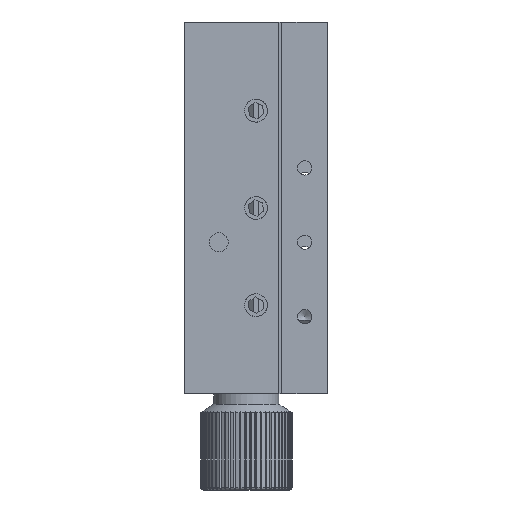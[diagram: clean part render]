
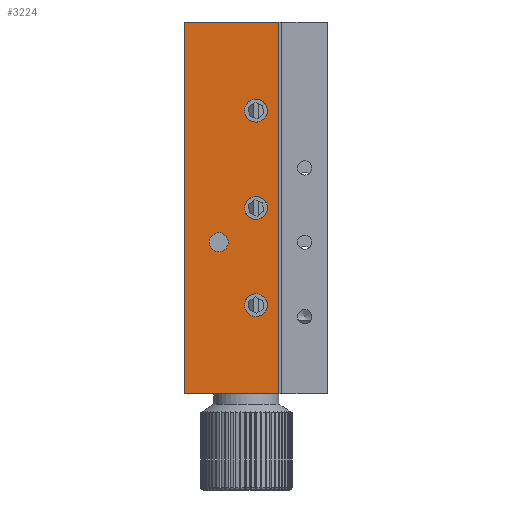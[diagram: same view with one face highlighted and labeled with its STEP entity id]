
A CAD part, left-side view. The second image highlights one B-rep face of the part: STEP entity #3224.
In plain terms, the highlighted planar face has unit normal (-1, 0, 0).
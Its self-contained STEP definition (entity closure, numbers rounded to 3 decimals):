
#50 = EDGE_CURVE ( 'NONE', #502, #494, #16207, .T. ) ;
#494 = VERTEX_POINT ( 'NONE', #4188 ) ;
#496 = VERTEX_POINT ( 'NONE', #4190 ) ;
#499 = VERTEX_POINT ( 'NONE', #4193 ) ;
#502 = VERTEX_POINT ( 'NONE', #4196 ) ;
#1358 = EDGE_CURVE ( 'NONE', #11047, #11047, #15970, .T. ) ;
#1359 = EDGE_CURVE ( 'NONE', #11045, #11045, #15966, .T. ) ;
#2084 = EDGE_LOOP ( 'NONE', ( #15119 ) ) ;
#2111 = EDGE_LOOP ( 'NONE', ( #15116, #15115, #15114, #15113 ) ) ;
#2146 = EDGE_LOOP ( 'NONE', ( #15118 ) ) ;
#2164 = EDGE_LOOP ( 'NONE', ( #15120 ) ) ;
#2193 = EDGE_LOOP ( 'NONE', ( #15117 ) ) ;
#3039 = EDGE_CURVE ( 'NONE', #499, #496, #15452, .T. ) ;
#3040 = EDGE_CURVE ( 'NONE', #502, #499, #15461, .T. ) ;
#3041 = EDGE_CURVE ( 'NONE', #494, #496, #15448, .T. ) ;
#3121 = AXIS2_PLACEMENT_3D ( 'NONE', #4445, #4446, #4447 ) ;
#3122 = AXIS2_PLACEMENT_3D ( 'NONE', #4442, #4443, #4444 ) ;
#3224 = ADVANCED_FACE ( 'NONE', ( #13415, #13410, #13441, #13432, #13412 ), #11347, .T. ) ;
#4188 = CARTESIAN_POINT ( 'NONE',  ( -100.496, -2.988, -79.681 ) ) ;
#4190 = CARTESIAN_POINT ( 'NONE',  ( -100.496, 13.512, -79.681 ) ) ;
#4193 = CARTESIAN_POINT ( 'NONE',  ( -100.496, 13.512, -14.681 ) ) ;
#4196 = CARTESIAN_POINT ( 'NONE',  ( -100.496, -2.988, -14.681 ) ) ;
#4442 = CARTESIAN_POINT ( 'NONE',  ( -100.496, 1.012, -64.181 ) ) ;
#4443 = DIRECTION ( 'NONE',  ( 1., 0., 0. ) ) ;
#4444 = DIRECTION ( 'NONE',  ( 0., 0., -1. ) ) ;
#4445 = CARTESIAN_POINT ( 'NONE',  ( -100.496, 1.012, -47.181 ) ) ;
#4446 = DIRECTION ( 'NONE',  ( 1., 0., 0. ) ) ;
#4447 = DIRECTION ( 'NONE',  ( 0., 0., -1. ) ) ;
#4934 = AXIS2_PLACEMENT_3D ( 'NONE', #11351, #11345, #11355 ) ;
#6500 = CARTESIAN_POINT ( 'NONE',  ( -100.496, 5.262, -14.681 ) ) ;
#6506 = CARTESIAN_POINT ( 'NONE',  ( -100.496, 13.512, -14.681 ) ) ;
#6508 = DIRECTION ( 'NONE',  ( 0., 0., -1. ) ) ;
#6509 = DIRECTION ( 'NONE',  ( 0., 1., 0. ) ) ;
#6510 = CARTESIAN_POINT ( 'NONE',  ( -100.496, 5.262, -79.681 ) ) ;
#6511 = DIRECTION ( 'NONE',  ( 0., 1., 0. ) ) ;
#7737 = CARTESIAN_POINT ( 'NONE',  ( -100.496, 1.012, -66.181 ) ) ;
#7738 = CARTESIAN_POINT ( 'NONE',  ( -100.496, 1.012, -49.181 ) ) ;
#7866 = CARTESIAN_POINT ( 'NONE',  ( -100.496, 1.012, -32.181 ) ) ;
#7867 = CARTESIAN_POINT ( 'NONE',  ( -100.496, 7.512, -51.531 ) ) ;
#8060 = AXIS2_PLACEMENT_3D ( 'NONE', #17277, #17278, #17279 ) ;
#8061 = AXIS2_PLACEMENT_3D ( 'NONE', #17281, #17282, #17283 ) ;
#11045 = VERTEX_POINT ( 'NONE', #7738 ) ;
#11047 = VERTEX_POINT ( 'NONE', #7737 ) ;
#11345 = DIRECTION ( 'NONE',  ( -1., 0., 0. ) ) ;
#11347 = PLANE ( 'NONE',  #4934 ) ;
#11351 = CARTESIAN_POINT ( 'NONE',  ( -100.496, 5.262, -14.681 ) ) ;
#11355 = DIRECTION ( 'NONE',  ( 0., 0., 1. ) ) ;
#11870 = CIRCLE ( 'NONE', #8061, 1.65 ) ;
#11919 = CIRCLE ( 'NONE', #8060, 2. ) ;
#13410 = FACE_BOUND ( 'NONE', #2084, .T. ) ;
#13412 = FACE_OUTER_BOUND ( 'NONE', #2111, .T. ) ;
#13415 = FACE_BOUND ( 'NONE', #2164, .T. ) ;
#13432 = FACE_BOUND ( 'NONE', #2193, .T. ) ;
#13441 = FACE_BOUND ( 'NONE', #2146, .T. ) ;
#13898 = EDGE_CURVE ( 'NONE', #14123, #14123, #11919, .T. ) ;
#13899 = EDGE_CURVE ( 'NONE', #14122, #14122, #11870, .T. ) ;
#14122 = VERTEX_POINT ( 'NONE', #7867 ) ;
#14123 = VERTEX_POINT ( 'NONE', #7866 ) ;
#15113 = ORIENTED_EDGE ( 'NONE', *, *, #3039, .T. ) ;
#15114 = ORIENTED_EDGE ( 'NONE', *, *, #3040, .T. ) ;
#15115 = ORIENTED_EDGE ( 'NONE', *, *, #50, .F. ) ;
#15116 = ORIENTED_EDGE ( 'NONE', *, *, #3041, .F. ) ;
#15117 = ORIENTED_EDGE ( 'NONE', *, *, #1358, .T. ) ;
#15118 = ORIENTED_EDGE ( 'NONE', *, *, #1359, .T. ) ;
#15119 = ORIENTED_EDGE ( 'NONE', *, *, #13898, .T. ) ;
#15120 = ORIENTED_EDGE ( 'NONE', *, *, #13899, .F. ) ;
#15445 = VECTOR ( 'NONE', #6511, 1000. ) ;
#15447 = VECTOR ( 'NONE', #6509, 1000. ) ;
#15448 = LINE ( 'NONE', #6510, #15445 ) ;
#15449 = VECTOR ( 'NONE', #6508, 1000. ) ;
#15452 = LINE ( 'NONE', #6506, #15449 ) ;
#15461 = LINE ( 'NONE', #6500, #15447 ) ;
#15966 = CIRCLE ( 'NONE', #3121, 2. ) ;
#15970 = CIRCLE ( 'NONE', #3122, 2. ) ;
#16205 = VECTOR ( 'NONE', #17661, 1000. ) ;
#16207 = LINE ( 'NONE', #17643, #16205 ) ;
#17277 = CARTESIAN_POINT ( 'NONE',  ( -100.496, 1.012, -30.181 ) ) ;
#17278 = DIRECTION ( 'NONE',  ( 1., 0., 0. ) ) ;
#17279 = DIRECTION ( 'NONE',  ( 0., 0., -1. ) ) ;
#17281 = CARTESIAN_POINT ( 'NONE',  ( -100.496, 7.512, -53.181 ) ) ;
#17282 = DIRECTION ( 'NONE',  ( -1., 0., 0. ) ) ;
#17283 = DIRECTION ( 'NONE',  ( 0., 0., 1. ) ) ;
#17643 = CARTESIAN_POINT ( 'NONE',  ( -100.496, -2.988, -14.681 ) ) ;
#17661 = DIRECTION ( 'NONE',  ( 0., 0., -1. ) ) ;
